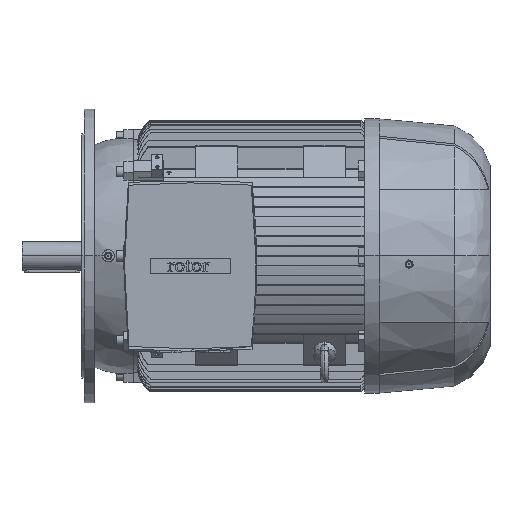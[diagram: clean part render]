
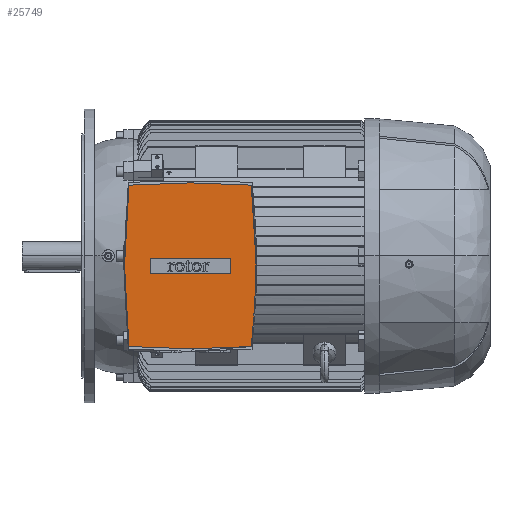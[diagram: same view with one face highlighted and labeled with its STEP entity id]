
A CAD part, top view. The second image highlights one B-rep face of the part: STEP entity #25749.
In plain terms, the highlighted planar face has unit normal (0, 0, 1).
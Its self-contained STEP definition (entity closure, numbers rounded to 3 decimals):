
#553 = VERTEX_POINT ( 'NONE', #30792 ) ;
#4535 = VERTEX_POINT ( 'NONE', #38037 ) ;
#5652 = CARTESIAN_POINT ( 'NONE',  ( 265.474, -204.379, 515. ) ) ;
#5668 = CARTESIAN_POINT ( 'NONE',  ( 272.151, -144.165, 515. ) ) ;
#5803 = CARTESIAN_POINT ( 'NONE',  ( 275.5, -83.583, 515. ) ) ;
#5877 = CARTESIAN_POINT ( 'NONE',  ( 275.5, 37.583, 515. ) ) ;
#6005 = CARTESIAN_POINT ( 'NONE',  ( 265.474, 158.379, 515. ) ) ;
#7290 = CARTESIAN_POINT ( 'NONE',  ( 265.474, 158.379, 515. ) ) ;
#8394 = VERTEX_POINT ( 'NONE', #48496 ) ;
#8524 = CARTESIAN_POINT ( 'NONE',  ( 272.151, 98.165, 515. ) ) ;
#9338 = ORIENTED_EDGE ( 'NONE', *, *, #20977, .F. ) ;
#9636 = ORIENTED_EDGE ( 'NONE', *, *, #24504, .T. ) ;
#9713 = ORIENTED_EDGE ( 'NONE', *, *, #46643, .F. ) ;
#11138 = DIRECTION ( 'NONE',  ( -1., 0., 0. ) ) ;
#11734 = CARTESIAN_POINT ( 'NONE',  ( 128., -40.5, 515. ) ) ;
#12823 = CARTESIAN_POINT ( 'NONE',  ( -9.474, 158.379, 515. ) ) ;
#16118 = CARTESIAN_POINT ( 'NONE',  ( 38., -23., 515. ) ) ;
#16195 = DIRECTION ( 'NONE',  ( 0., 1., 0. ) ) ;
#17521 = ORIENTED_EDGE ( 'NONE', *, *, #38848, .F. ) ;
#17709 = B_SPLINE_CURVE_WITH_KNOTS ( 'NONE', 3,
 ( #37647, #37705, #37474, #37343 ),
 .UNSPECIFIED., .F., .F.,
 ( 4, 4 ),
 ( 0., 1. ),
 .UNSPECIFIED. ) ;
#17781 = B_SPLINE_CURVE_WITH_KNOTS ( 'NONE', 3,
 ( #63150, #63059, #62798, #62786 ),
 .UNSPECIFIED., .F., .F.,
 ( 4, 4 ),
 ( 0.5, 1. ),
 .UNSPECIFIED. ) ;
#18943 = VERTEX_POINT ( 'NONE', #63606 ) ;
#20061 = B_SPLINE_CURVE_WITH_KNOTS ( 'NONE', 3,
 ( #21979, #21820, #22862, #22948 ),
 .UNSPECIFIED., .F., .F.,
 ( 4, 4 ),
 ( 0., 1. ),
 .UNSPECIFIED. ) ;
#20156 = CARTESIAN_POINT ( 'NONE',  ( -19.5, -23., 515. ) ) ;
#20188 = EDGE_CURVE ( 'NONE', #4535, #18943, #30339, .T. ) ;
#20942 = ORIENTED_EDGE ( 'NONE', *, *, #20188, .T. ) ;
#20977 = EDGE_CURVE ( 'NONE', #61049, #60349, #38834, .T. ) ;
#21820 = CARTESIAN_POINT ( 'NONE',  ( 82.133, -209.5, 515. ) ) ;
#21979 = CARTESIAN_POINT ( 'NONE',  ( 128., -209.5, 515. ) ) ;
#22862 = CARTESIAN_POINT ( 'NONE',  ( 36.266, -207.791, 515. ) ) ;
#22948 = CARTESIAN_POINT ( 'NONE',  ( -9.474, -204.379, 515. ) ) ;
#23513 = CARTESIAN_POINT ( 'NONE',  ( -19.5, -83.583, 515. ) ) ;
#24407 = CARTESIAN_POINT ( 'NONE',  ( -9.474, -204.379, 515. ) ) ;
#24504 = EDGE_CURVE ( 'NONE', #18943, #54376, #50568, .T. ) ;
#25302 = ORIENTED_EDGE ( 'NONE', *, *, #25685, .F. ) ;
#25685 = EDGE_CURVE ( 'NONE', #553, #61049, #20061, .T. ) ;
#25749 = ADVANCED_FACE ( 'NONE', ( #31216, #41621 ), #37098, .T. ) ;
#26377 = CARTESIAN_POINT ( 'NONE',  ( -16.151, -144.165, 515. ) ) ;
#27016 = B_SPLINE_CURVE_WITH_KNOTS ( 'NONE', 3,
 ( #6005, #8524, #5877, #5803, #5668, #5652 ),
 .UNSPECIFIED., .F., .F.,
 ( 4, 2, 4 ),
 ( 0., 0.5, 1. ),
 .UNSPECIFIED. ) ;
#28073 = CARTESIAN_POINT ( 'NONE',  ( 128., -23., 515. ) ) ;
#28148 = DIRECTION ( 'NONE',  ( 0., 0., 1. ) ) ;
#28197 = DIRECTION ( 'NONE',  ( 1., 0., 0. ) ) ;
#28407 = CARTESIAN_POINT ( 'NONE',  ( -9.474, -204.379, 515. ) ) ;
#28538 = CARTESIAN_POINT ( 'NONE',  ( -19.5, -23., 515. ) ) ;
#29451 = CARTESIAN_POINT ( 'NONE',  ( 128., -209.5, 515. ) ) ;
#29594 = CARTESIAN_POINT ( 'NONE',  ( 173.867, -209.5, 515. ) ) ;
#29598 = EDGE_LOOP ( 'NONE', ( #48240, #36378, #17521, #9338, #25302, #9713, #64984 ) ) ;
#29658 = VECTOR ( 'NONE', #16195, 1000. ) ;
#29803 = CARTESIAN_POINT ( 'NONE',  ( 265.474, -204.379, 515. ) ) ;
#29810 = CARTESIAN_POINT ( 'NONE',  ( 219.734, -207.791, 515. ) ) ;
#30339 = LINE ( 'NONE', #16118, #29658 ) ;
#30792 = CARTESIAN_POINT ( 'NONE',  ( 128., -209.5, 515. ) ) ;
#31216 = FACE_OUTER_BOUND ( 'NONE', #29598, .T. ) ;
#31926 = LINE ( 'NONE', #52440, #32054 ) ;
#32054 = VECTOR ( 'NONE', #52516, 1000. ) ;
#34130 = DIRECTION ( 'NONE',  ( 1., 0., 0. ) ) ;
#34190 = CARTESIAN_POINT ( 'NONE',  ( 128., -5.5, 515. ) ) ;
#35794 = EDGE_CURVE ( 'NONE', #8394, #4535, #62521, .T. ) ;
#35959 = CARTESIAN_POINT ( 'NONE',  ( 218., -5.5, 515. ) ) ;
#36378 = ORIENTED_EDGE ( 'NONE', *, *, #42709, .F. ) ;
#37098 = PLANE ( 'NONE',  #64447 ) ;
#37343 = CARTESIAN_POINT ( 'NONE',  ( 128., 163.5, 515. ) ) ;
#37474 = CARTESIAN_POINT ( 'NONE',  ( 82.133, 163.5, 515. ) ) ;
#37647 = CARTESIAN_POINT ( 'NONE',  ( -9.474, 158.379, 515. ) ) ;
#37705 = CARTESIAN_POINT ( 'NONE',  ( 36.266, 161.791, 515. ) ) ;
#38037 = CARTESIAN_POINT ( 'NONE',  ( 38., -40.5, 515. ) ) ;
#38834 = B_SPLINE_CURVE_WITH_KNOTS ( 'NONE', 3,
 ( #28407, #26377, #23513, #28538 ),
 .UNSPECIFIED., .F., .F.,
 ( 4, 4 ),
 ( 0., 0.5 ),
 .UNSPECIFIED. ) ;
#38848 = EDGE_CURVE ( 'NONE', #60349, #39685, #17781, .T. ) ;
#39199 = B_SPLINE_CURVE_WITH_KNOTS ( 'NONE', 3,
 ( #29803, #29810, #29594, #29451 ),
 .UNSPECIFIED., .F., .F.,
 ( 4, 4 ),
 ( 0., 1. ),
 .UNSPECIFIED. ) ;
#39230 = EDGE_CURVE ( 'NONE', #62165, #45250, #45384, .T. ) ;
#39685 = VERTEX_POINT ( 'NONE', #12823 ) ;
#41427 = CARTESIAN_POINT ( 'NONE',  ( 128., 163.5, 515. ) ) ;
#41621 = FACE_BOUND ( 'NONE', #43066, .T. ) ;
#41811 = CARTESIAN_POINT ( 'NONE',  ( 265.474, 158.379, 515. ) ) ;
#41942 = CARTESIAN_POINT ( 'NONE',  ( 128., 163.5, 515. ) ) ;
#42035 = CARTESIAN_POINT ( 'NONE',  ( 173.867, 163.5, 515. ) ) ;
#42425 = VERTEX_POINT ( 'NONE', #50573 ) ;
#42429 = CARTESIAN_POINT ( 'NONE',  ( 219.734, 161.791, 515. ) ) ;
#42709 = EDGE_CURVE ( 'NONE', #39685, #62165, #17709, .T. ) ;
#43066 = EDGE_LOOP ( 'NONE', ( #9636, #44187, #44979, #20942 ) ) ;
#44187 = ORIENTED_EDGE ( 'NONE', *, *, #44249, .T. ) ;
#44249 = EDGE_CURVE ( 'NONE', #54376, #8394, #31926, .T. ) ;
#44979 = ORIENTED_EDGE ( 'NONE', *, *, #35794, .T. ) ;
#45250 = VERTEX_POINT ( 'NONE', #7290 ) ;
#45384 = B_SPLINE_CURVE_WITH_KNOTS ( 'NONE', 3,
 ( #41942, #42035, #42429, #41811 ),
 .UNSPECIFIED., .F., .F.,
 ( 4, 4 ),
 ( 0., 1. ),
 .UNSPECIFIED. ) ;
#46643 = EDGE_CURVE ( 'NONE', #42425, #553, #39199, .T. ) ;
#48240 = ORIENTED_EDGE ( 'NONE', *, *, #39230, .F. ) ;
#48496 = CARTESIAN_POINT ( 'NONE',  ( 218., -40.5, 515. ) ) ;
#49133 = EDGE_CURVE ( 'NONE', #45250, #42425, #27016, .T. ) ;
#50568 = LINE ( 'NONE', #34190, #53882 ) ;
#50573 = CARTESIAN_POINT ( 'NONE',  ( 265.474, -204.379, 515. ) ) ;
#52440 = CARTESIAN_POINT ( 'NONE',  ( 218., -23., 515. ) ) ;
#52516 = DIRECTION ( 'NONE',  ( 0., -1., 0. ) ) ;
#53882 = VECTOR ( 'NONE', #34130, 1000. ) ;
#54376 = VERTEX_POINT ( 'NONE', #35959 ) ;
#60349 = VERTEX_POINT ( 'NONE', #20156 ) ;
#61007 = VECTOR ( 'NONE', #11138, 1000. ) ;
#61049 = VERTEX_POINT ( 'NONE', #24407 ) ;
#62165 = VERTEX_POINT ( 'NONE', #41427 ) ;
#62521 = LINE ( 'NONE', #11734, #61007 ) ;
#62786 = CARTESIAN_POINT ( 'NONE',  ( -9.474, 158.379, 515. ) ) ;
#62798 = CARTESIAN_POINT ( 'NONE',  ( -16.151, 98.165, 515. ) ) ;
#63059 = CARTESIAN_POINT ( 'NONE',  ( -19.5, 37.583, 515. ) ) ;
#63150 = CARTESIAN_POINT ( 'NONE',  ( -19.5, -23., 515. ) ) ;
#63606 = CARTESIAN_POINT ( 'NONE',  ( 38., -5.5, 515. ) ) ;
#64447 = AXIS2_PLACEMENT_3D ( 'NONE', #28073, #28148, #28197 ) ;
#64984 = ORIENTED_EDGE ( 'NONE', *, *, #49133, .F. ) ;
